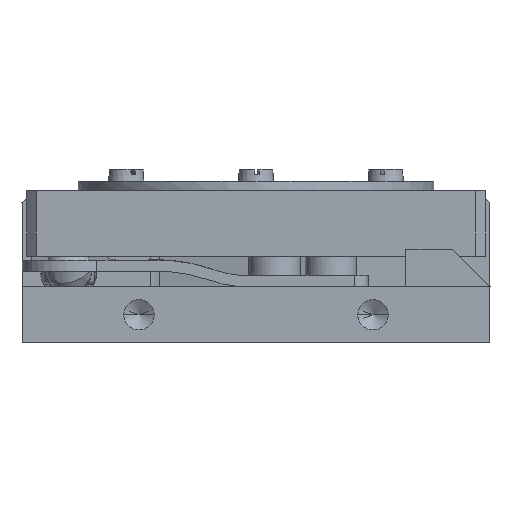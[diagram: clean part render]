
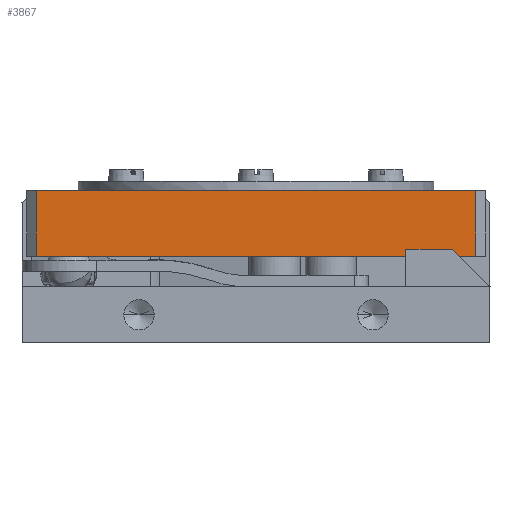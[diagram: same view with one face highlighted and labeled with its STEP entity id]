
A CAD part, front view. The second image highlights one B-rep face of the part: STEP entity #3867.
In plain terms, the highlighted planar face has unit normal (0, -1, 0).
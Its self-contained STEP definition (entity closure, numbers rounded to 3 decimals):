
#2959 = VERTEX_POINT ( 'NONE', #16911 ) ;
#2985 = VERTEX_POINT ( 'NONE', #16990 ) ;
#2987 = EDGE_CURVE ( 'NONE', #2985, #2959, #16987, .T. ) ;
#3792 = ORIENTED_EDGE ( 'NONE', *, *, #2987, .F. ) ;
#3793 = ORIENTED_EDGE ( 'NONE', *, *, #3812, .T. ) ;
#3794 = ORIENTED_EDGE ( 'NONE', *, *, #3795, .T. ) ;
#3795 = EDGE_CURVE ( 'NONE', #3810, #3871, #20571, .T. ) ;
#3810 = VERTEX_POINT ( 'NONE', #20612 ) ;
#3812 = EDGE_CURVE ( 'NONE', #2985, #3810, #20611, .T. ) ;
#3867 = ADVANCED_FACE ( 'NONE', ( #20817 ), #20816, .T. ) ;
#3868 = EDGE_LOOP ( 'NONE', ( #3869, #3792, #3793, #3794 ) ) ;
#3869 = ORIENTED_EDGE ( 'NONE', *, *, #3870, .T. ) ;
#3870 = EDGE_CURVE ( 'NONE', #3871, #2959, #20811, .T. ) ;
#3871 = VERTEX_POINT ( 'NONE', #20807 ) ;
#16911 = CARTESIAN_POINT ( 'NONE',  ( 2.653, -13.462, 9.261 ) ) ;
#16982 = DIRECTION ( 'NONE',  ( -1., 0., 0. ) ) ;
#16984 = VECTOR ( 'NONE', #16982, 1000. ) ;
#16986 = CARTESIAN_POINT ( 'NONE',  ( 10.153, -13.462, 9.261 ) ) ;
#16987 = LINE ( 'NONE', #16986, #16984 ) ;
#16990 = CARTESIAN_POINT ( 'NONE',  ( 49.653, -13.462, 9.261 ) ) ;
#20568 = DIRECTION ( 'NONE',  ( -1., 0., 0. ) ) ;
#20569 = VECTOR ( 'NONE', #20568, 1000. ) ;
#20570 = CARTESIAN_POINT ( 'NONE',  ( 50.653, -13.462, 16.261 ) ) ;
#20571 = LINE ( 'NONE', #20570, #20569 ) ;
#20608 = DIRECTION ( 'NONE',  ( 0., 0., 1. ) ) ;
#20609 = VECTOR ( 'NONE', #20608, 1000. ) ;
#20610 = CARTESIAN_POINT ( 'NONE',  ( 49.653, -13.462, 9.261 ) ) ;
#20611 = LINE ( 'NONE', #20610, #20609 ) ;
#20612 = CARTESIAN_POINT ( 'NONE',  ( 49.653, -13.462, 16.261 ) ) ;
#20807 = CARTESIAN_POINT ( 'NONE',  ( 2.653, -13.462, 16.261 ) ) ;
#20808 = DIRECTION ( 'NONE',  ( 0., 0., -1. ) ) ;
#20809 = VECTOR ( 'NONE', #20808, 1000. ) ;
#20810 = CARTESIAN_POINT ( 'NONE',  ( 2.653, -13.462, 9.261 ) ) ;
#20811 = LINE ( 'NONE', #20810, #20809 ) ;
#20812 = DIRECTION ( 'NONE',  ( 1., 0., 0. ) ) ;
#20813 = DIRECTION ( 'NONE',  ( 0., -1., 0. ) ) ;
#20814 = CARTESIAN_POINT ( 'NONE',  ( 50.653, -13.462, 9.261 ) ) ;
#20815 = AXIS2_PLACEMENT_3D ( 'NONE', #20814, #20813, #20812 ) ;
#20816 = PLANE ( 'NONE',  #20815 ) ;
#20817 = FACE_OUTER_BOUND ( 'NONE', #3868, .T. ) ;
